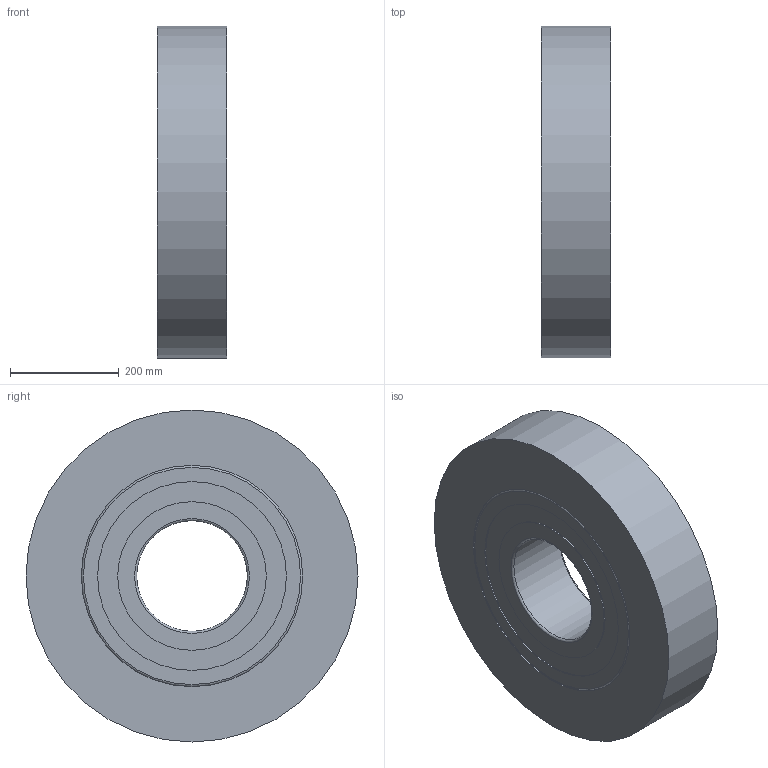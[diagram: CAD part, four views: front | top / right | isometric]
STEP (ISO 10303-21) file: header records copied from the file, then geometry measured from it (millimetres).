
FILE_DESCRIPTION((''),'1');
FILE_NAME('H:/図庫/国内ﾕﾆｯﾄ/ｶﾀﾛｸﾞ/ｺﾞﾑ直巻/ホームページ用ＣＡＤ図面/update用/3', '2017-07-14T09:07:52',(''), (''), 'KCM Version 1.1.1442.0', 'Kubotek KeyCreator', '');
FILE_SCHEMA(('AUTOMOTIVE_DESIGN'));
Length unit declared in the file: inch
Bounding box: 127 x 609.6 x 609.6 mm (x, y, z)
Surface area: 866246.3 mm2 (no closed solid volume)
Topology: 0 solids, 20 shells, 20 faces, 68 edges, 56 vertices
Faces by surface type: plane 8, cylinder 8, torus 4
Full cylindrical faces by diameter (mm): 203.2 x1, 273.05 x2, 346.71 x2, 406.4 x2, 609.6 x1
Entity records: 790 total; most frequent: DIRECTION 154, CARTESIAN_POINT 137, ORIENTED_EDGE 80, AXIS2_PLACEMENT_3D 73, EDGE_CURVE 68, VERTEX_POINT 56, CIRCLE 52, EDGE_LOOP 28
